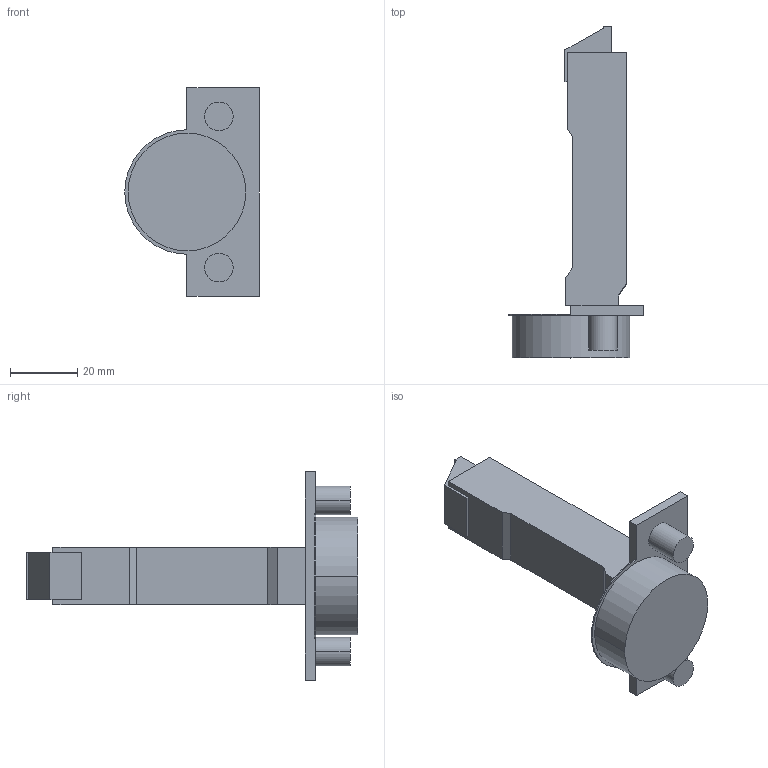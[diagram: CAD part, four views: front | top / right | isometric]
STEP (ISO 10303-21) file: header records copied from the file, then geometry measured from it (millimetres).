
FILE_DESCRIPTION (( 'STEP AP214' ), '1' );
FILE_NAME ('Scharnier T Click-on 110° B_BB, K03_Quick_Dübel.step', '2018-09-12T09:11:37', ( '' ), ( '' ), 'SwSTEP 2.0', 'SolidWorks 2017', '' );
FILE_SCHEMA (( 'AUTOMOTIVE_DESIGN' ));
Length unit declared in the file: millimetre
Products named in the file (1): Scharnier T Click-on 110° B_BB, K03_Quick_Dübel
Bounding box: 40 x 98.7 x 62 mm (x, y, z)
Volume: 39511.4 mm3; surface area: 11820 mm2
Topology: 1 solids, 1 shells, 54 faces, 130 edges, 86 vertices
Faces by surface type: plane 37, cylinder 17
Entity records: 1606 total; most frequent: DIRECTION 274, CARTESIAN_POINT 271, ORIENTED_EDGE 260, EDGE_CURVE 130, VECTOR 96, LINE 96, AXIS2_PLACEMENT_3D 89, VERTEX_POINT 86
